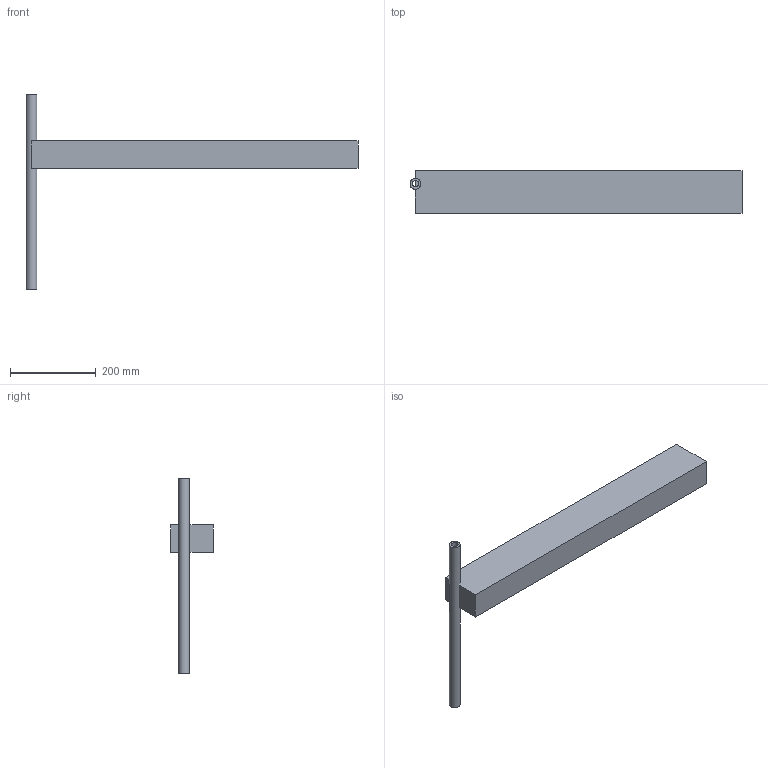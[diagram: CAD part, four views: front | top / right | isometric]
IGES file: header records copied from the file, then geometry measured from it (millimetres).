
Global section: file name: TinneyARLUT_eVTOLBladeForSharing_2024; native system: Autodesk RealDWG; preprocessor: Autodesk Translation Framework DWG producer (atf_dwg_producer); organization: unknown; date: 20240130.093952; units: inch
Bounding box: 774.7 x 98.42 x 457.2 mm (x, y, z)
Volume: 5142719.6 mm3; surface area: 389468.2 mm2
Topology: 4 solids, 4 shells, 58 faces, 135 edges, 94 vertices
Faces by surface type: bspline 58
